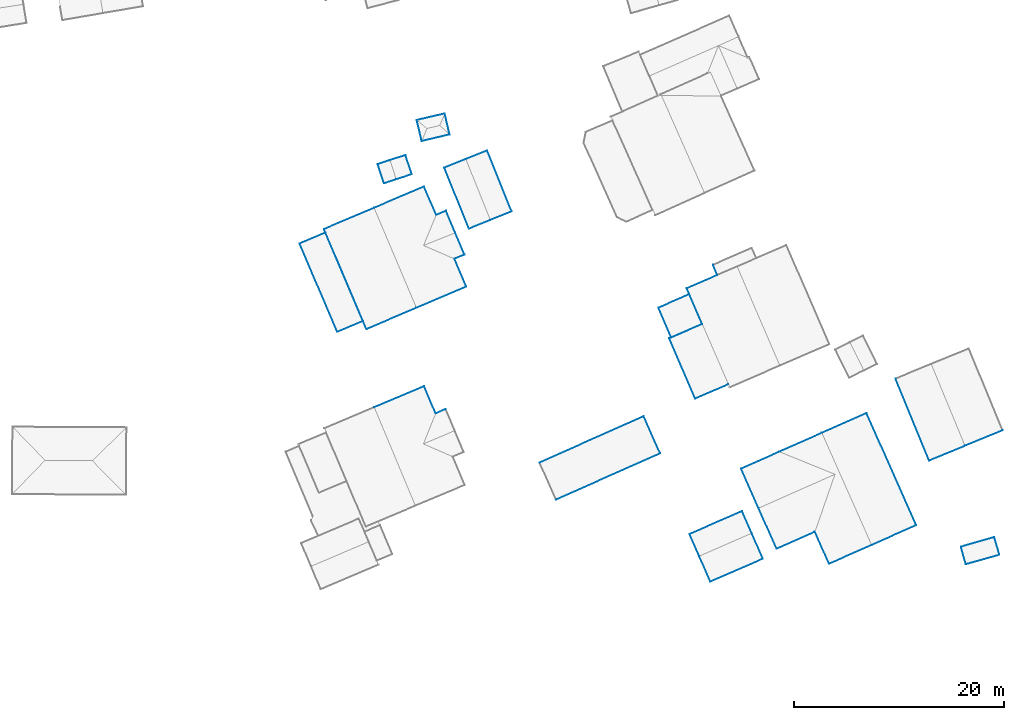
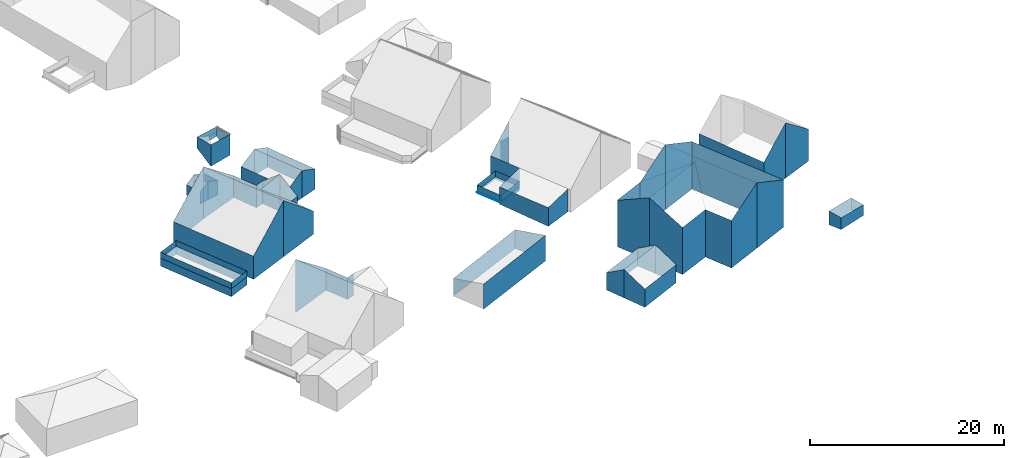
# Not in any storey, part 33 of 57: 86 walls.
"""IFC2X3 building model written with IfcOpenShell, lengths in metres."""

from ifc_helpers import new_model, entity, si_unit, converted_unit, origin, place, context, subcontext, project, spatial, face_set, surface_model, element, save


model = new_model("IFC2X3")

# Units and contexts
model_context = context("Model", 3, precision=1e-05, world=origin())
body_context = subcontext(model_context, "Body", "Model", "MODEL_VIEW")
ifc_project = project(units=[converted_unit("PLANEANGLEUNIT", "DEGREE", entity("IfcRatioMeasure", 0.0174532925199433), si_unit("PLANEANGLEUNIT", "RADIAN"), dimensions=[0, 0, 0, 0, 0, 0, 0]), si_unit("AREAUNIT", "SQUARE_METRE"), si_unit("LENGTHUNIT", "METRE")], contexts=[model_context])

# Site, building
site_placement = place(None, origin())
site = spatial("IfcSite", under=ifc_project, at=site_placement, Name="_site", CompositionType="ELEMENT")
building_1_placement = place(site_placement, origin())
building_1 = spatial("IfcBuilding", under=site, at=building_1_placement, Name="_building", CompositionType="ELEMENT")

# Walls
wall_1_placement = place(building_1_placement, origin())
element("IfcWall", 1, at=wall_1_placement, inside=building_1, Name="Wall", context=body_context, shape_type="SurfaceModel", body=[
    surface_model("IfcFaceBasedSurfaceModel", [(244.68, 198.119, 221.99), (248.72, 199.91, 224.23), (248.72, 199.91, 216.034), (244.68, 198.119, 216.092)], [face_set([[[0, 1, 2, 3]]])]),
])
wall_2_placement = place(building_1_placement, origin())
element("IfcWall", 2, at=wall_2_placement, inside=building_1, Name="Wall", context=body_context, shape_type="SurfaceModel", body=[
    surface_model("IfcFaceBasedSurfaceModel", [(253.45, 189.25, 224.23), (249.41, 187.461, 221.99), (249.41, 187.461, 216.009), (253.45, 189.25, 216.008)], [face_set([[[0, 1, 2, 3]]])]),
])
wall_3_placement = place(building_1_placement, origin())
element("IfcWall", 3, at=wall_3_placement, inside=building_1, Name="Wall", context=body_context, shape_type="SurfaceModel", body=[
    surface_model("IfcFaceBasedSurfaceModel", [(257.7, 191.131, 221.99), (253.45, 189.25, 224.23), (253.45, 189.25, 216.008), (257.7, 191.131, 216.008)], [face_set([[[0, 1, 2, 3]]])]),
])
wall_4_placement = place(building_1_placement, origin())
element("IfcWall", 4, at=wall_4_placement, inside=building_1, Name="Wall", context=body_context, shape_type="SurfaceModel", body=[
    surface_model("IfcFaceBasedSurfaceModel", [(248.72, 199.91, 224.23), (252.97, 201.801, 221.99), (252.97, 201.801, 216.002), (248.72, 199.91, 216.034)], [face_set([[[0, 1, 2, 3]]])]),
])
wall_5_placement = place(building_1_placement, origin())
element("IfcWall", 5, at=wall_5_placement, inside=building_1, Name="Wall", context=body_context, shape_type="SurfaceModel", body=[
    surface_model("IfcFaceBasedSurfaceModel", [(242.7, 192.76, 223.99), (241.04, 196.51, 221.99), (241.04, 196.51, 216.143), (242.7, 192.76, 216.111)], [face_set([[[0, 1, 2, 3]]])]),
])
wall_6_placement = place(building_1_placement, origin())
element("IfcWall", 6, at=wall_6_placement, inside=building_1, Name="Wall", context=body_context, shape_type="SurfaceModel", body=[
    surface_model("IfcFaceBasedSurfaceModel", [(244.42, 188.891, 221.99), (242.7, 192.76, 223.99), (242.7, 192.76, 216.111), (244.42, 188.891, 216.076)], [face_set([[[0, 1, 2, 3]]])]),
])
wall_7_placement = place(building_1_placement, origin())
element("IfcWall", 7, at=wall_7_placement, inside=building_1, Name="Wall", context=body_context, shape_type="SurfaceModel", body=[
    surface_model("IfcFaceBasedSurfaceModel", [(241.04, 196.51, 221.99), (244.68, 198.119, 221.99), (244.68, 198.119, 216.092), (241.04, 196.51, 216.143)], [face_set([[[0, 1, 2, 3]]])]),
])
wall_8_placement = place(building_1_placement, origin())
element("IfcWall", 8, at=wall_8_placement, inside=building_1, Name="Wall", context=body_context, shape_type="SurfaceModel", body=[
    surface_model("IfcFaceBasedSurfaceModel", [(248.06, 190.51, 221.99), (244.42, 188.891, 221.99), (244.42, 188.891, 216.076), (248.06, 190.51, 216.024)], [face_set([[[0, 1, 2, 3]]])]),
])
wall_9_placement = place(building_1_placement, origin())
element("IfcWall", 9, at=wall_9_placement, inside=building_1, Name="Wall", context=body_context, shape_type="SurfaceModel", body=[
    surface_model("IfcFaceBasedSurfaceModel", [(249.41, 187.461, 221.99), (248.06, 190.51, 221.99), (248.06, 190.51, 216.024), (249.41, 187.461, 216.009)], [face_set([[[0, 1, 2, 3]]])]),
])
wall_10_placement = place(building_1_placement, origin())
element("IfcWall", 10, at=wall_10_placement, inside=building_1, Name="Wall", context=body_context, shape_type="SurfaceModel", body=[
    surface_model("IfcFaceBasedSurfaceModel", [(252.97, 201.801, 221.99), (257.7, 191.131, 221.99), (257.7, 191.131, 216.008), (252.97, 201.801, 216.002)], [face_set([[[0, 1, 2, 3]]])]),
])

# Building
building_2_placement = place(site_placement, origin())
building_2 = spatial("IfcBuilding", under=site, at=building_2_placement, Name="_building", CompositionType="ELEMENT")

# Walls
wall_11_placement = place(building_2_placement, origin())
element("IfcWall", 11, at=wall_11_placement, inside=building_2, Name="Wall", context=body_context, shape_type="SurfaceModel", body=[
    surface_model("IfcFaceBasedSurfaceModel", [(265.61, 188.32, 217.78), (262.42, 187.41, 217.82), (262.42, 187.41, 216.321), (265.61, 188.32, 216.447)], [face_set([[[0, 1, 2, 3]]])]),
])
wall_12_placement = place(building_2_placement, origin())
element("IfcWall", 12, at=wall_12_placement, inside=building_2, Name="Wall", context=body_context, shape_type="SurfaceModel", body=[
    surface_model("IfcFaceBasedSurfaceModel", [(265.13, 189.99, 217.82), (265.61, 188.32, 217.78), (265.61, 188.32, 216.447), (265.13, 189.99, 216.212)], [face_set([[[0, 1, 2, 3]]])]),
])
wall_13_placement = place(building_2_placement, origin())
element("IfcWall", 13, at=wall_13_placement, inside=building_2, Name="Wall", context=body_context, shape_type="SurfaceModel", body=[
    surface_model("IfcFaceBasedSurfaceModel", [(261.95, 189.08, 217.82), (265.13, 189.99, 217.82), (265.13, 189.99, 216.212), (261.95, 189.08, 216.087)], [face_set([[[0, 1, 2, 3]]])]),
])
wall_14_placement = place(building_2_placement, origin())
element("IfcWall", 14, at=wall_14_placement, inside=building_2, Name="Wall", context=body_context, shape_type="SurfaceModel", body=[
    surface_model("IfcFaceBasedSurfaceModel", [(262.42, 187.41, 217.82), (261.95, 189.08, 217.82), (261.95, 189.08, 216.087), (262.42, 187.41, 216.321)], [face_set([[[0, 1, 2, 3]]])]),
])

# Building
building_3_placement = place(site_placement, origin())
building_3 = spatial("IfcBuilding", under=site, at=building_3_placement, Name="_building", CompositionType="ELEMENT")

# Walls
wall_15_placement = place(building_3_placement, origin())
element("IfcWall", 15, at=wall_15_placement, inside=building_3, Name="Wall", context=body_context, shape_type="SurfaceModel", body=[
    surface_model("IfcFaceBasedSurfaceModel", [(262.33, 198.68, 222.97), (258.93, 197.279, 220.02), (258.93, 197.279, 216.005), (262.33, 198.68, 216.004)], [face_set([[[0, 1, 2, 3]]])]),
])
wall_16_placement = place(building_3_placement, origin())
element("IfcWall", 16, at=wall_16_placement, inside=building_3, Name="Wall", context=body_context, shape_type="SurfaceModel", body=[
    surface_model("IfcFaceBasedSurfaceModel", [(265.91, 200.16, 220.02), (262.33, 198.68, 222.97), (262.33, 198.68, 216.004), (265.91, 200.16, 216.002)], [face_set([[[0, 1, 2, 3]]])]),
])
wall_17_placement = place(building_3_placement, origin())
element("IfcWall", 17, at=wall_17_placement, inside=building_3, Name="Wall", context=body_context, shape_type="SurfaceModel", body=[
    surface_model("IfcFaceBasedSurfaceModel", [(258.93, 197.279, 220.02), (255.73, 205.07, 220.02), (255.73, 205.07, 216.001), (258.93, 197.279, 216.005)], [face_set([[[0, 1, 2, 3]]])]),
])

# Building
building_4_placement = place(site_placement, origin())
building_4 = spatial("IfcBuilding", under=site, at=building_4_placement, Name="_building", CompositionType="ELEMENT")

# Walls
wall_18_placement = place(building_4_placement, origin())
element("IfcWall", 18, at=wall_18_placement, inside=building_4, Name="Wall", context=body_context, shape_type="SurfaceModel", body=[
    surface_model("IfcFaceBasedSurfaceModel", [(207.63, 225.859, 219.13), (209.11, 226.34, 218.48), (209.11, 226.34, 217.508), (207.63, 225.859, 217.347)], [face_set([[[0, 1, 2, 3]]])]),
])
wall_19_placement = place(building_4_placement, origin())
element("IfcWall", 19, at=wall_19_placement, inside=building_4, Name="Wall", context=body_context, shape_type="SurfaceModel", body=[
    surface_model("IfcFaceBasedSurfaceModel", [(206.48, 225.48, 218.48), (207.63, 225.859, 219.13), (207.63, 225.859, 217.347), (206.48, 225.48, 217.162)], [face_set([[[0, 1, 2, 3]]])]),
])
wall_20_placement = place(building_4_placement, origin())
element("IfcWall", 20, at=wall_20_placement, inside=building_4, Name="Wall", context=body_context, shape_type="SurfaceModel", body=[
    surface_model("IfcFaceBasedSurfaceModel", [(208.23, 224.029, 219.13), (207.07, 223.65, 218.48), (207.07, 223.65, 216.947), (208.23, 224.029, 216.84)], [face_set([[[0, 1, 2, 3]]])]),
])
wall_21_placement = place(building_4_placement, origin())
element("IfcWall", 21, at=wall_21_placement, inside=building_4, Name="Wall", context=body_context, shape_type="SurfaceModel", body=[
    surface_model("IfcFaceBasedSurfaceModel", [(209.71, 224.52, 218.48), (208.23, 224.029, 219.13), (208.23, 224.029, 216.84), (209.71, 224.52, 216.669)], [face_set([[[0, 1, 2, 3]]])]),
])
wall_22_placement = place(building_4_placement, origin())
element("IfcWall", 22, at=wall_22_placement, inside=building_4, Name="Wall", context=body_context, shape_type="SurfaceModel", body=[
    surface_model("IfcFaceBasedSurfaceModel", [(207.07, 223.65, 218.48), (206.48, 225.48, 218.48), (206.48, 225.48, 217.162), (207.07, 223.65, 216.947)], [face_set([[[0, 1, 2, 3]]])]),
])
wall_23_placement = place(building_4_placement, origin())
element("IfcWall", 23, at=wall_23_placement, inside=building_4, Name="Wall", context=body_context, shape_type="SurfaceModel", body=[
    surface_model("IfcFaceBasedSurfaceModel", [(209.11, 226.34, 218.48), (209.71, 224.52, 218.48), (209.71, 224.52, 216.669), (209.11, 226.34, 217.508)], [face_set([[[0, 1, 2, 3]]])]),
])

# Building
building_5_placement = place(site_placement, origin())
building_5 = spatial("IfcBuilding", under=site, at=building_5_placement, Name="_building", CompositionType="ELEMENT")

# Walls
wall_24_placement = place(building_5_placement, origin())
element("IfcWall", 24, at=wall_24_placement, inside=building_5, Name="Wall", context=body_context, shape_type="SurfaceModel", body=[
    surface_model("IfcFaceBasedSurfaceModel", [(235.87, 213.66, 218.99), (238.78, 214.93, 221.57), (238.78, 214.93, 216.201), (235.87, 213.66, 216.348)], [face_set([[[0, 1, 2, 3]]])]),
])
wall_25_placement = place(building_5_placement, origin())
element("IfcWall", 25, at=wall_25_placement, inside=building_5, Name="Wall", context=body_context, shape_type="SurfaceModel", body=[
    surface_model("IfcFaceBasedSurfaceModel", [(238.78, 214.93, 219.6), (238.36, 215.891, 218.62), (238.36, 215.891, 216.178), (238.78, 214.93, 216.201)], [face_set([[[0, 1, 2, 3]]])]),
])
wall_26_placement = place(building_5_placement, origin())
element("IfcWall", 26, at=wall_26_placement, inside=building_5, Name="Wall", context=body_context, shape_type="SurfaceModel", body=[
    surface_model("IfcFaceBasedSurfaceModel", [(237.34, 210.27, 218.99), (235.87, 213.66, 218.99), (235.87, 213.66, 216.348), (237.34, 210.27, 216.163)], [face_set([[[0, 1, 2, 3]]])]),
])
wall_27_placement = place(building_5_placement, origin())
element("IfcWall", 27, at=wall_27_placement, inside=building_5, Name="Wall", context=body_context, shape_type="SurfaceModel", body=[
    surface_model("IfcFaceBasedSurfaceModel", [(234.2, 208.9, 218.54), (237.34, 210.27, 218.99), (237.34, 210.27, 216.163), (234.2, 208.9, 216.363)], [face_set([[[0, 1, 2, 3]]])]),
])
wall_28_placement = place(building_5_placement, origin())
element("IfcWall", 28, at=wall_28_placement, inside=building_5, Name="Wall", context=body_context, shape_type="SurfaceModel", body=[
    surface_model("IfcFaceBasedSurfaceModel", [(239.83, 204.539, 218.99), (236.68, 203.18, 218.54), (236.68, 203.18, 216.177), (239.83, 204.539, 216.128)], [face_set([[[0, 1, 2, 3]]])]),
])
wall_29_placement = place(building_5_placement, origin())
element("IfcWall", 29, at=wall_29_placement, inside=building_5, Name="Wall", context=body_context, shape_type="SurfaceModel", body=[
    surface_model("IfcFaceBasedSurfaceModel", [(236.68, 203.18, 218.54), (234.2, 208.9, 218.54), (234.2, 208.9, 216.363), (236.68, 203.18, 216.177)], [face_set([[[0, 1, 2, 3]]])]),
])
wall_30_placement = place(building_5_placement, origin())
element("IfcWall", 30, at=wall_30_placement, inside=building_5, Name="Wall", context=body_context, shape_type="SurfaceModel", body=[
    surface_model("IfcFaceBasedSurfaceModel", [(233.18, 211.82, 216.61), (236.11, 213.1, 216.61), (236.11, 213.1, 217.36), (233.18, 211.82, 217.36)], [face_set([[[0, 1, 2, 3]]])]),
])
wall_31_placement = place(building_5_placement, origin())
element("IfcWall", 31, at=wall_31_placement, inside=building_5, Name="Wall", context=body_context, shape_type="SurfaceModel", body=[
    surface_model("IfcFaceBasedSurfaceModel", [(234.4, 208.99, 216.61), (233.18, 211.82, 216.61), (233.18, 211.82, 217.36), (234.4, 208.99, 217.36)], [face_set([[[0, 1, 2, 3]]])]),
])
wall_32_placement = place(building_5_placement, origin())
element("IfcWall", 32, at=wall_32_placement, inside=building_5, Name="Wall", context=body_context, shape_type="SurfaceModel", body=[
    surface_model("IfcFaceBasedSurfaceModel", [(237.34, 210.27, 216.61), (234.4, 208.99, 216.61), (234.4, 208.99, 217.36), (237.34, 210.27, 217.36)], [face_set([[[0, 1, 2, 3]]])]),
])
wall_33_placement = place(building_5_placement, origin())
element("IfcWall", 33, at=wall_33_placement, inside=building_5, Name="Wall", context=body_context, shape_type="SurfaceModel", body=[
    surface_model("IfcFaceBasedSurfaceModel", [(236.11, 213.1, 216.61), (237.34, 210.27, 216.61), (237.34, 210.27, 217.36), (236.11, 213.1, 217.36)], [face_set([[[0, 1, 2, 3]]])]),
])
wall_34_placement = place(building_5_placement, origin())
element("IfcWall", 34, at=wall_34_placement, inside=building_5, Name="Wall", context=body_context, shape_type="SurfaceModel", body=[
    surface_model("IfcFaceBasedSurfaceModel", [(233.18, 211.82, 216.61), (236.11, 213.1, 216.61), (236.11, 213.1, 217.36), (233.18, 211.82, 217.36)], [face_set([[[0, 1, 2, 3]]])]),
])
wall_35_placement = place(building_5_placement, origin())
element("IfcWall", 35, at=wall_35_placement, inside=building_5, Name="Wall", context=body_context, shape_type="SurfaceModel", body=[
    surface_model("IfcFaceBasedSurfaceModel", [(234.4, 208.99, 216.61), (233.18, 211.82, 216.61), (233.18, 211.82, 217.36), (234.4, 208.99, 217.36)], [face_set([[[0, 1, 2, 3]]])]),
])
wall_36_placement = place(building_5_placement, origin())
element("IfcWall", 36, at=wall_36_placement, inside=building_5, Name="Wall", context=body_context, shape_type="SurfaceModel", body=[
    surface_model("IfcFaceBasedSurfaceModel", [(237.34, 210.27, 216.61), (234.4, 208.99, 216.61), (234.4, 208.99, 217.36), (237.34, 210.27, 217.36)], [face_set([[[0, 1, 2, 3]]])]),
])
wall_37_placement = place(building_5_placement, origin())
element("IfcWall", 37, at=wall_37_placement, inside=building_5, Name="Wall", context=body_context, shape_type="SurfaceModel", body=[
    surface_model("IfcFaceBasedSurfaceModel", [(236.11, 213.1, 216.61), (237.34, 210.27, 216.61), (237.34, 210.27, 217.36), (236.11, 213.1, 217.36)], [face_set([[[0, 1, 2, 3]]])]),
])
wall_38_placement = place(building_5_placement, origin())
element("IfcWall", 38, at=wall_38_placement, inside=building_5, Name="Wall", context=body_context, shape_type="SurfaceModel", body=[
    surface_model("IfcFaceBasedSurfaceModel", [(234.4, 208.99, 216.61), (233.18, 211.82, 216.61), (233.18, 211.82, 216.382), (234.4, 208.99, 216.359)], [face_set([[[0, 1, 2, 3]]])]),
])
wall_39_placement = place(building_5_placement, origin())
element("IfcWall", 39, at=wall_39_placement, inside=building_5, Name="Wall", context=body_context, shape_type="SurfaceModel", body=[
    surface_model("IfcFaceBasedSurfaceModel", [(233.18, 211.82, 216.61), (236.11, 213.1, 216.61), (236.11, 213.1, 216.32), (233.18, 211.82, 216.382)], [face_set([[[0, 1, 2, 3]]])]),
])
wall_40_placement = place(building_5_placement, origin())
element("IfcWall", 40, at=wall_40_placement, inside=building_5, Name="Wall", context=body_context, shape_type="SurfaceModel", body=[
    surface_model("IfcFaceBasedSurfaceModel", [(237.34, 210.27, 216.61), (234.4, 208.99, 216.61), (234.4, 208.99, 216.359), (237.34, 210.27, 216.163)], [face_set([[[0, 1, 2, 3]]])]),
])
wall_41_placement = place(building_5_placement, origin())
element("IfcWall", 41, at=wall_41_placement, inside=building_5, Name="Wall", context=body_context, shape_type="SurfaceModel", body=[
    surface_model("IfcFaceBasedSurfaceModel", [(236.11, 213.1, 216.61), (237.34, 210.27, 216.61), (237.34, 210.27, 216.163), (236.11, 213.1, 216.32)], [face_set([[[0, 1, 2, 3]]])]),
])

# Building
building_6_placement = place(site_placement, origin())
building_6 = spatial("IfcBuilding", under=site, at=building_6_placement, Name="_building", CompositionType="ELEMENT")

# Walls
wall_42_placement = place(building_6_placement, origin())
element("IfcWall", 42, at=wall_42_placement, inside=building_6, Name="Wall", context=body_context, shape_type="SurfaceModel", body=[
    surface_model("IfcFaceBasedSurfaceModel", [(206.14, 202.35, 223.22), (210.89, 204.35, 219.22), (210.89, 204.35, 216.457), (206.14, 202.35, 216.542)], [face_set([[[0, 1, 2, 3]]])]),
])
wall_43_placement = place(building_6_placement, origin())
element("IfcWall", 43, at=wall_43_placement, inside=building_6, Name="Wall", context=body_context, shape_type="SurfaceModel", body=[
    surface_model("IfcFaceBasedSurfaceModel", [(211.98, 201.77, 219.22), (212.94, 202.18, 219.22), (212.94, 202.18, 216.461), (211.98, 201.77, 216.47)], [face_set([[[0, 1, 2, 3]]])]),
])
wall_44_placement = place(building_6_placement, origin())
element("IfcWall", 44, at=wall_44_placement, inside=building_6, Name="Wall", context=body_context, shape_type="SurfaceModel", body=[
    surface_model("IfcFaceBasedSurfaceModel", [(210.89, 204.35, 219.22), (211.98, 201.77, 219.22), (211.98, 201.77, 216.47), (210.89, 204.35, 216.457)], [face_set([[[0, 1, 2, 3]]])]),
])

# Building
building_7_placement = place(site_placement, origin())
building_7 = spatial("IfcBuilding", under=site, at=building_7_placement, Name="_building", CompositionType="ELEMENT")

# Walls
wall_45_placement = place(building_7_placement, origin())
element("IfcWall", 45, at=wall_45_placement, inside=building_7, Name="Wall", context=body_context, shape_type="SurfaceModel", body=[
    surface_model("IfcFaceBasedSurfaceModel", [(210.19, 229.67, 220.66), (212.85, 230.289, 220.64), (212.85, 230.289, 219.426), (210.19, 229.67, 219.202)], [face_set([[[0, 1, 2, 3]]])]),
])
wall_46_placement = place(building_7_placement, origin())
element("IfcWall", 46, at=wall_46_placement, inside=building_7, Name="Wall", context=body_context, shape_type="SurfaceModel", body=[
    surface_model("IfcFaceBasedSurfaceModel", [(212.85, 230.289, 220.64), (213.32, 228.301, 220.7), (213.32, 228.301, 218.105), (212.85, 230.289, 219.426)], [face_set([[[0, 1, 2, 3]]])]),
])
wall_47_placement = place(building_7_placement, origin())
element("IfcWall", 47, at=wall_47_placement, inside=building_7, Name="Wall", context=body_context, shape_type="SurfaceModel", body=[
    surface_model("IfcFaceBasedSurfaceModel", [(210.66, 227.67, 220.72), (210.19, 229.67, 220.66), (210.19, 229.67, 219.202), (210.66, 227.67, 217.989)], [face_set([[[0, 1, 2, 3]]])]),
])
wall_48_placement = place(building_7_placement, origin())
element("IfcWall", 48, at=wall_48_placement, inside=building_7, Name="Wall", context=body_context, shape_type="SurfaceModel", body=[
    surface_model("IfcFaceBasedSurfaceModel", [(213.32, 228.301, 220.7), (210.66, 227.67, 220.72), (210.66, 227.67, 217.989), (213.32, 228.301, 218.105)], [face_set([[[0, 1, 2, 3]]])]),
])

# Building
building_8_placement = place(site_placement, origin())
building_8 = spatial("IfcBuilding", under=site, at=building_8_placement, Name="_building", CompositionType="ELEMENT")

# Walls
wall_49_placement = place(building_8_placement, origin())
element("IfcWall", 49, at=wall_49_placement, inside=building_8, Name="Wall", context=body_context, shape_type="SurfaceModel", body=[
    surface_model("IfcFaceBasedSurfaceModel", [(212.81, 225.141, 218.73), (214.85, 225.961, 219.73), (214.85, 225.961, 216.373), (212.81, 225.141, 216.493)], [face_set([[[0, 1, 2, 3]]])]),
])
wall_50_placement = place(building_8_placement, origin())
element("IfcWall", 50, at=wall_50_placement, inside=building_8, Name="Wall", context=body_context, shape_type="SurfaceModel", body=[
    surface_model("IfcFaceBasedSurfaceModel", [(217.18, 220.16, 219.75), (215.15, 219.34, 218.73), (215.15, 219.34, 216.415), (217.18, 220.16, 216.291)], [face_set([[[0, 1, 2, 3]]])]),
])
wall_51_placement = place(building_8_placement, origin())
element("IfcWall", 51, at=wall_51_placement, inside=building_8, Name="Wall", context=body_context, shape_type="SurfaceModel", body=[
    surface_model("IfcFaceBasedSurfaceModel", [(214.85, 225.961, 219.73), (216.87, 226.779, 218.73), (216.87, 226.779, 216.269), (214.85, 225.961, 216.373)], [face_set([[[0, 1, 2, 3]]])]),
])
wall_52_placement = place(building_8_placement, origin())
element("IfcWall", 52, at=wall_52_placement, inside=building_8, Name="Wall", context=body_context, shape_type="SurfaceModel", body=[
    surface_model("IfcFaceBasedSurfaceModel", [(219.21, 220.98, 218.73), (217.18, 220.16, 219.75), (217.18, 220.16, 216.291), (219.21, 220.98, 216.199)], [face_set([[[0, 1, 2, 3]]])]),
])
wall_53_placement = place(building_8_placement, origin())
element("IfcWall", 53, at=wall_53_placement, inside=building_8, Name="Wall", context=body_context, shape_type="SurfaceModel", body=[
    surface_model("IfcFaceBasedSurfaceModel", [(215.15, 219.34, 218.73), (212.81, 225.141, 218.73), (212.81, 225.141, 216.493), (215.15, 219.34, 216.415)], [face_set([[[0, 1, 2, 3]]])]),
])
wall_54_placement = place(building_8_placement, origin())
element("IfcWall", 54, at=wall_54_placement, inside=building_8, Name="Wall", context=body_context, shape_type="SurfaceModel", body=[
    surface_model("IfcFaceBasedSurfaceModel", [(216.87, 226.779, 218.73), (219.21, 220.98, 218.73), (219.21, 220.98, 216.199), (216.87, 226.779, 216.269)], [face_set([[[0, 1, 2, 3]]])]),
])

# Building
building_9_placement = place(site_placement, origin())
building_9 = spatial("IfcBuilding", under=site, at=building_9_placement, Name="_building", CompositionType="ELEMENT")

# Walls
wall_55_placement = place(building_9_placement, origin())
element("IfcWall", 55, at=wall_55_placement, inside=building_9, Name="Wall", context=body_context, shape_type="SurfaceModel", body=[
    surface_model("IfcFaceBasedSurfaceModel", [(201.36, 219.301, 219.36), (206.12, 221.32, 223.4), (206.12, 221.32, 216.833), (201.36, 219.301, 216.615)], [face_set([[[0, 1, 2, 3]]])]),
])
wall_56_placement = place(building_9_placement, origin())
element("IfcWall", 56, at=wall_56_placement, inside=building_9, Name="Wall", context=body_context, shape_type="SurfaceModel", body=[
    surface_model("IfcFaceBasedSurfaceModel", [(206.12, 221.32, 223.4), (210.88, 223.35, 219.36), (210.88, 223.35, 216.615), (206.12, 221.32, 216.833)], [face_set([[[0, 1, 2, 3]]])]),
])
wall_57_placement = place(building_9_placement, origin())
element("IfcWall", 57, at=wall_57_placement, inside=building_9, Name="Wall", context=body_context, shape_type="SurfaceModel", body=[
    surface_model("IfcFaceBasedSurfaceModel", [(210.15, 211.801, 223.49), (205.4, 209.789, 219.38), (205.4, 209.789, 216.455), (210.15, 211.801, 216.418)], [face_set([[[0, 1, 2, 3]]])]),
])
wall_58_placement = place(building_9_placement, origin())
element("IfcWall", 58, at=wall_58_placement, inside=building_9, Name="Wall", context=body_context, shape_type="SurfaceModel", body=[
    surface_model("IfcFaceBasedSurfaceModel", [(214.9, 213.82, 219.27), (210.15, 211.801, 223.49), (210.15, 211.801, 216.418), (214.9, 213.82, 216.403)], [face_set([[[0, 1, 2, 3]]])]),
])
wall_59_placement = place(building_9_placement, origin())
element("IfcWall", 59, at=wall_59_placement, inside=building_9, Name="Wall", context=body_context, shape_type="SurfaceModel", body=[
    surface_model("IfcFaceBasedSurfaceModel", [(212.96, 221.039, 219.35), (213.84, 218.949, 221.17), (213.84, 218.949, 216.481), (212.96, 221.039, 216.521)], [face_set([[[0, 1, 2, 3]]])]),
])
wall_60_placement = place(building_9_placement, origin())
element("IfcWall", 60, at=wall_60_placement, inside=building_9, Name="Wall", context=body_context, shape_type="SurfaceModel", body=[
    surface_model("IfcFaceBasedSurfaceModel", [(213.84, 218.949, 221.17), (214.73, 216.869, 219.35), (214.73, 216.869, 216.421), (213.84, 218.949, 216.481)], [face_set([[[0, 1, 2, 3]]])]),
])
wall_61_placement = place(building_9_placement, origin())
element("IfcWall", 61, at=wall_61_placement, inside=building_9, Name="Wall", context=body_context, shape_type="SurfaceModel", body=[
    surface_model("IfcFaceBasedSurfaceModel", [(210.88, 223.35, 219.36), (212.03, 220.65, 219.35), (212.03, 220.65, 216.547), (210.88, 223.35, 216.615)], [face_set([[[0, 1, 2, 3]]])]),
])
wall_62_placement = place(building_9_placement, origin())
element("IfcWall", 62, at=wall_62_placement, inside=building_9, Name="Wall", context=body_context, shape_type="SurfaceModel", body=[
    surface_model("IfcFaceBasedSurfaceModel", [(212.03, 220.65, 219.35), (212.96, 221.039, 219.35), (212.96, 221.039, 216.521), (212.03, 220.65, 216.547)], [face_set([[[0, 1, 2, 3]]])]),
])
wall_63_placement = place(building_9_placement, origin())
element("IfcWall", 63, at=wall_63_placement, inside=building_9, Name="Wall", context=body_context, shape_type="SurfaceModel", body=[
    surface_model("IfcFaceBasedSurfaceModel", [(205.4, 209.789, 219.38), (201.36, 219.301, 219.36), (201.36, 219.301, 216.615), (205.4, 209.789, 216.455)], [face_set([[[0, 1, 2, 3]]])]),
])
wall_64_placement = place(building_9_placement, origin())
element("IfcWall", 64, at=wall_64_placement, inside=building_9, Name="Wall", context=body_context, shape_type="SurfaceModel", body=[
    surface_model("IfcFaceBasedSurfaceModel", [(214.73, 216.869, 219.35), (213.77, 216.471, 219.33), (213.77, 216.471, 216.427), (214.73, 216.869, 216.421)], [face_set([[[0, 1, 2, 3]]])]),
])
wall_65_placement = place(building_9_placement, origin())
element("IfcWall", 65, at=wall_65_placement, inside=building_9, Name="Wall", context=body_context, shape_type="SurfaceModel", body=[
    surface_model("IfcFaceBasedSurfaceModel", [(213.77, 216.471, 219.33), (214.9, 213.82, 219.27), (214.9, 213.82, 216.403), (213.77, 216.471, 216.427)], [face_set([[[0, 1, 2, 3]]])]),
])
wall_66_placement = place(building_9_placement, origin())
element("IfcWall", 66, at=wall_66_placement, inside=building_9, Name="Wall", context=body_context, shape_type="SurfaceModel", body=[
    surface_model("IfcFaceBasedSurfaceModel", [(201.5, 218.971, 216.41), (205.07, 210.561, 216.41), (205.07, 210.561, 217.16), (201.5, 218.971, 217.16)], [face_set([[[0, 1, 2, 3]]])]),
])
wall_67_placement = place(building_9_placement, origin())
element("IfcWall", 67, at=wall_67_placement, inside=building_9, Name="Wall", context=body_context, shape_type="SurfaceModel", body=[
    surface_model("IfcFaceBasedSurfaceModel", [(199.05, 217.93, 216.41), (201.5, 218.971, 216.41), (201.5, 218.971, 217.16), (199.05, 217.93, 217.16)], [face_set([[[0, 1, 2, 3]]])]),
])
wall_68_placement = place(building_9_placement, origin())
element("IfcWall", 68, at=wall_68_placement, inside=building_9, Name="Wall", context=body_context, shape_type="SurfaceModel", body=[
    surface_model("IfcFaceBasedSurfaceModel", [(202.62, 209.52, 216.41), (199.05, 217.93, 216.41), (199.05, 217.93, 217.16), (202.62, 209.52, 217.16)], [face_set([[[0, 1, 2, 3]]])]),
])
wall_69_placement = place(building_9_placement, origin())
element("IfcWall", 69, at=wall_69_placement, inside=building_9, Name="Wall", context=body_context, shape_type="SurfaceModel", body=[
    surface_model("IfcFaceBasedSurfaceModel", [(205.07, 210.561, 216.41), (202.62, 209.52, 216.41), (202.62, 209.52, 217.16), (205.07, 210.561, 217.16)], [face_set([[[0, 1, 2, 3]]])]),
])
wall_70_placement = place(building_9_placement, origin())
element("IfcWall", 70, at=wall_70_placement, inside=building_9, Name="Wall", context=body_context, shape_type="SurfaceModel", body=[
    surface_model("IfcFaceBasedSurfaceModel", [(201.5, 218.971, 216.41), (205.07, 210.561, 216.41), (205.07, 210.561, 217.16), (201.5, 218.971, 217.16)], [face_set([[[0, 1, 2, 3]]])]),
])
wall_71_placement = place(building_9_placement, origin())
element("IfcWall", 71, at=wall_71_placement, inside=building_9, Name="Wall", context=body_context, shape_type="SurfaceModel", body=[
    surface_model("IfcFaceBasedSurfaceModel", [(199.05, 217.93, 216.41), (201.5, 218.971, 216.41), (201.5, 218.971, 217.16), (199.05, 217.93, 217.16)], [face_set([[[0, 1, 2, 3]]])]),
])
wall_72_placement = place(building_9_placement, origin())
element("IfcWall", 72, at=wall_72_placement, inside=building_9, Name="Wall", context=body_context, shape_type="SurfaceModel", body=[
    surface_model("IfcFaceBasedSurfaceModel", [(202.62, 209.52, 216.41), (199.05, 217.93, 216.41), (199.05, 217.93, 217.16), (202.62, 209.52, 217.16)], [face_set([[[0, 1, 2, 3]]])]),
])
wall_73_placement = place(building_9_placement, origin())
element("IfcWall", 73, at=wall_73_placement, inside=building_9, Name="Wall", context=body_context, shape_type="SurfaceModel", body=[
    surface_model("IfcFaceBasedSurfaceModel", [(205.07, 210.561, 216.41), (202.62, 209.52, 216.41), (202.62, 209.52, 217.16), (205.07, 210.561, 217.16)], [face_set([[[0, 1, 2, 3]]])]),
])
wall_74_placement = place(building_9_placement, origin())
element("IfcWall", 74, at=wall_74_placement, inside=building_9, Name="Wall", context=body_context, shape_type="SurfaceModel", body=[
    surface_model("IfcFaceBasedSurfaceModel", [(201.5, 218.971, 216.41), (205.07, 210.561, 216.41), (205.07, 210.561, 215.41), (201.5, 218.971, 215.41)], [face_set([[[0, 1, 2, 3]]])]),
])
wall_75_placement = place(building_9_placement, origin())
element("IfcWall", 75, at=wall_75_placement, inside=building_9, Name="Wall", context=body_context, shape_type="SurfaceModel", body=[
    surface_model("IfcFaceBasedSurfaceModel", [(199.05, 217.93, 216.41), (201.5, 218.971, 216.41), (201.5, 218.971, 215.41), (199.05, 217.93, 215.41)], [face_set([[[0, 1, 2, 3]]])]),
])
wall_76_placement = place(building_9_placement, origin())
element("IfcWall", 76, at=wall_76_placement, inside=building_9, Name="Wall", context=body_context, shape_type="SurfaceModel", body=[
    surface_model("IfcFaceBasedSurfaceModel", [(202.62, 209.52, 216.41), (199.05, 217.93, 216.41), (199.05, 217.93, 215.41), (202.62, 209.52, 215.41)], [face_set([[[0, 1, 2, 3]]])]),
])
wall_77_placement = place(building_9_placement, origin())
element("IfcWall", 77, at=wall_77_placement, inside=building_9, Name="Wall", context=body_context, shape_type="SurfaceModel", body=[
    surface_model("IfcFaceBasedSurfaceModel", [(205.07, 210.561, 216.41), (202.62, 209.52, 216.41), (202.62, 209.52, 215.41), (205.07, 210.561, 215.41)], [face_set([[[0, 1, 2, 3]]])]),
])

# Building
building_10_placement = place(site_placement, origin())
building_10 = spatial("IfcBuilding", under=site, at=building_10_placement, Name="_building", CompositionType="ELEMENT")

# Walls
wall_78_placement = place(building_10_placement, origin())
element("IfcWall", 78, at=wall_78_placement, inside=building_10, Name="Wall", context=body_context, shape_type="SurfaceModel", body=[
    surface_model("IfcFaceBasedSurfaceModel", [(233.34, 197.961, 219.39), (223.44, 193.57, 219.39), (223.44, 193.57, 216.235), (233.34, 197.961, 216.183)], [face_set([[[0, 1, 2, 3]]])]),
])
wall_79_placement = place(building_10_placement, origin())
element("IfcWall", 79, at=wall_79_placement, inside=building_10, Name="Wall", context=body_context, shape_type="SurfaceModel", body=[
    surface_model("IfcFaceBasedSurfaceModel", [(231.77, 201.49, 218.51), (233.34, 197.961, 219.39), (233.34, 197.961, 216.183), (231.77, 201.49, 216.133)], [face_set([[[0, 1, 2, 3]]])]),
])
wall_80_placement = place(building_10_placement, origin())
element("IfcWall", 80, at=wall_80_placement, inside=building_10, Name="Wall", context=body_context, shape_type="SurfaceModel", body=[
    surface_model("IfcFaceBasedSurfaceModel", [(221.87, 197.09, 218.51), (231.77, 201.49, 218.51), (231.77, 201.49, 216.133), (221.87, 197.09, 216.28)], [face_set([[[0, 1, 2, 3]]])]),
])

# Building
building_11_placement = place(site_placement, origin())
building_11 = spatial("IfcBuilding", under=site, at=building_11_placement, Name="_building", CompositionType="ELEMENT")

# Walls
wall_81_placement = place(building_11_placement, origin())
element("IfcWall", 81, at=wall_81_placement, inside=building_11, Name="Wall", context=body_context, shape_type="SurfaceModel", body=[
    surface_model("IfcFaceBasedSurfaceModel", [(237.06, 188.199, 219.71), (236.14, 190.289, 218.35), (236.14, 190.289, 216.195), (237.06, 188.199, 216.128)], [face_set([[[0, 1, 2, 3]]])]),
])
wall_82_placement = place(building_11_placement, origin())
element("IfcWall", 82, at=wall_82_placement, inside=building_11, Name="Wall", context=body_context, shape_type="SurfaceModel", body=[
    surface_model("IfcFaceBasedSurfaceModel", [(241.13, 192.471, 218.35), (242.05, 190.381, 219.71), (242.05, 190.381, 216.116), (241.13, 192.471, 216.134)], [face_set([[[0, 1, 2, 3]]])]),
])
wall_83_placement = place(building_11_placement, origin())
element("IfcWall", 83, at=wall_83_placement, inside=building_11, Name="Wall", context=body_context, shape_type="SurfaceModel", body=[
    surface_model("IfcFaceBasedSurfaceModel", [(242.05, 190.381, 219.71), (243.11, 187.939, 218.35), (243.11, 187.939, 216.094), (242.05, 190.381, 216.116)], [face_set([[[0, 1, 2, 3]]])]),
])
wall_84_placement = place(building_11_placement, origin())
element("IfcWall", 84, at=wall_84_placement, inside=building_11, Name="Wall", context=body_context, shape_type="SurfaceModel", body=[
    surface_model("IfcFaceBasedSurfaceModel", [(238.12, 185.76, 218.35), (237.06, 188.199, 219.71), (237.06, 188.199, 216.128), (238.12, 185.76, 216.05)], [face_set([[[0, 1, 2, 3]]])]),
])
wall_85_placement = place(building_11_placement, origin())
element("IfcWall", 85, at=wall_85_placement, inside=building_11, Name="Wall", context=body_context, shape_type="SurfaceModel", body=[
    surface_model("IfcFaceBasedSurfaceModel", [(236.14, 190.289, 218.35), (241.13, 192.471, 218.35), (241.13, 192.471, 216.134), (236.14, 190.289, 216.195)], [face_set([[[0, 1, 2, 3]]])]),
])
wall_86_placement = place(building_11_placement, origin())
element("IfcWall", 86, at=wall_86_placement, inside=building_11, Name="Wall", context=body_context, shape_type="SurfaceModel", body=[
    surface_model("IfcFaceBasedSurfaceModel", [(243.11, 187.939, 218.35), (238.12, 185.76, 218.35), (238.12, 185.76, 216.05), (243.11, 187.939, 216.094)], [face_set([[[0, 1, 2, 3]]])]),
])

save(model, "model.ifc")
